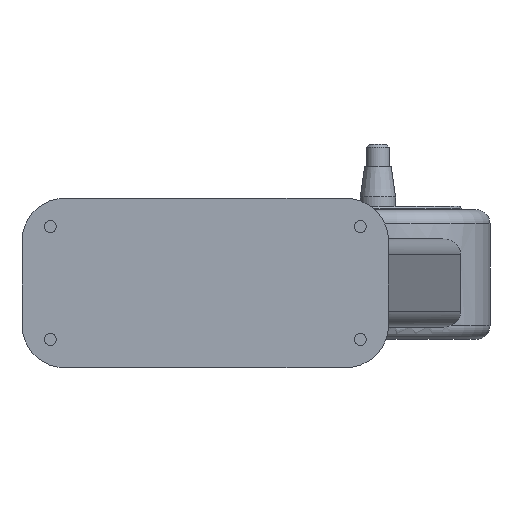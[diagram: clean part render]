
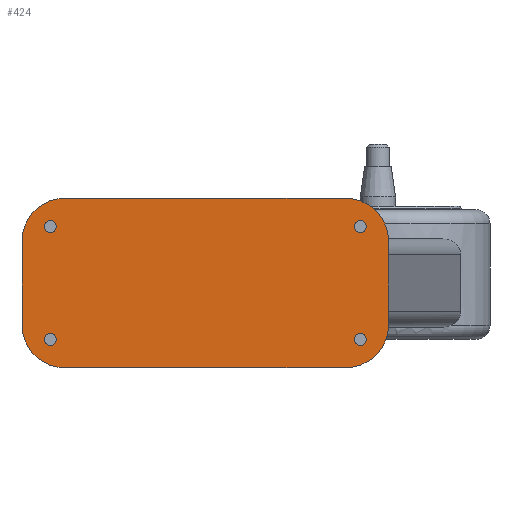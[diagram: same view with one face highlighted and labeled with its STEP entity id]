
A CAD part, front view. The second image highlights one B-rep face of the part: STEP entity #424.
In plain terms, the highlighted planar face has unit normal (0, -1, 0).
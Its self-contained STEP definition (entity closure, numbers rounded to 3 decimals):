
#36 = DIRECTION ( 'NONE',  ( 1., 0., 0. ) ) ;
#42 = DIRECTION ( 'NONE',  ( 0., -1., 0. ) ) ;
#53 = FACE_BOUND ( 'NONE', #187, .T. ) ;
#78 = VERTEX_POINT ( 'NONE', #725 ) ;
#92 = DIRECTION ( 'NONE',  ( 1., 0., 0. ) ) ;
#96 = EDGE_CURVE ( 'NONE', #1626, #918, #1276, .T. ) ;
#115 = FACE_OUTER_BOUND ( 'NONE', #1152, .T. ) ;
#129 = AXIS2_PLACEMENT_3D ( 'NONE', #443, #1768, #656 ) ;
#141 = DIRECTION ( 'NONE',  ( 1., 0., 0. ) ) ;
#142 = AXIS2_PLACEMENT_3D ( 'NONE', #1912, #873, #2055 ) ;
#162 = DIRECTION ( 'NONE',  ( 0., -1., 0. ) ) ;
#172 = CIRCLE ( 'NONE', #142, 4.25 ) ;
#177 = AXIS2_PLACEMENT_3D ( 'NONE', #2130, #1161, #2281 ) ;
#187 = EDGE_LOOP ( 'NONE', ( #1706, #1569 ) ) ;
#192 = EDGE_CURVE ( 'NONE', #1191, #1143, #1658, .T. ) ;
#204 = DIRECTION ( 'NONE',  ( 1., 0., 0. ) ) ;
#247 = ORIENTED_EDGE ( 'NONE', *, *, #1557, .T. ) ;
#280 = CIRCLE ( 'NONE', #1721, 4.25 ) ;
#281 = AXIS2_PLACEMENT_3D ( 'NONE', #1251, #42, #1430 ) ;
#287 = CARTESIAN_POINT ( 'NONE',  ( 102.666, 0., 30. ) ) ;
#383 = EDGE_CURVE ( 'NONE', #2217, #447, #2056, .T. ) ;
#412 = CARTESIAN_POINT ( 'NONE',  ( -127.334, 0., 60. ) ) ;
#424 = ADVANCED_FACE ( 'NONE', ( #1631, #53, #679, #613, #115 ), #1100, .F. ) ;
#443 = CARTESIAN_POINT ( 'NONE',  ( -97.334, 0., -30. ) ) ;
#447 = VERTEX_POINT ( 'NONE', #2231 ) ;
#469 = AXIS2_PLACEMENT_3D ( 'NONE', #1339, #162, #1536 ) ;
#486 = AXIS2_PLACEMENT_3D ( 'NONE', #1219, #1047, #36 ) ;
#488 = DIRECTION ( 'NONE',  ( -1., 0., 0. ) ) ;
#490 = DIRECTION ( 'NONE',  ( -1., 0., 0. ) ) ;
#507 = DIRECTION ( 'NONE',  ( -1., 0., 0. ) ) ;
#510 = DIRECTION ( 'NONE',  ( 0., -1., 0. ) ) ;
#511 = CARTESIAN_POINT ( 'NONE',  ( -97.334, 0., 30. ) ) ;
#530 = ORIENTED_EDGE ( 'NONE', *, *, #1374, .T. ) ;
#540 = ORIENTED_EDGE ( 'NONE', *, *, #1650, .F. ) ;
#546 = CARTESIAN_POINT ( 'NONE',  ( -127.334, 0., 30. ) ) ;
#549 = VERTEX_POINT ( 'NONE', #756 ) ;
#578 = EDGE_CURVE ( 'NONE', #549, #1333, #280, .T. ) ;
#590 = CARTESIAN_POINT ( 'NONE',  ( -97.334, 0., -60. ) ) ;
#606 = VECTOR ( 'NONE', #1194, 1000. ) ;
#613 = FACE_BOUND ( 'NONE', #1029, .T. ) ;
#625 = CARTESIAN_POINT ( 'NONE',  ( 102.666, 0., -60. ) ) ;
#636 = LINE ( 'NONE', #1668, #1697 ) ;
#656 = DIRECTION ( 'NONE',  ( -1., 0., 0. ) ) ;
#679 = FACE_BOUND ( 'NONE', #1024, .T. ) ;
#708 = ORIENTED_EDGE ( 'NONE', *, *, #2308, .T. ) ;
#710 = CARTESIAN_POINT ( 'NONE',  ( -127.334, 0., 60. ) ) ;
#725 = CARTESIAN_POINT ( 'NONE',  ( -103.084, 0., 40. ) ) ;
#750 = DIRECTION ( 'NONE',  ( 0., 1., 0. ) ) ;
#754 = VECTOR ( 'NONE', #1938, 1000. ) ;
#756 = CARTESIAN_POINT ( 'NONE',  ( 116.916, 0., 40. ) ) ;
#758 = EDGE_CURVE ( 'NONE', #1270, #1904, #1027, .T. ) ;
#759 = DIRECTION ( 'NONE',  ( 0., 0., -1. ) ) ;
#767 = ORIENTED_EDGE ( 'NONE', *, *, #578, .F. ) ;
#808 = CARTESIAN_POINT ( 'NONE',  ( -127.334, 0., -30. ) ) ;
#820 = CIRCLE ( 'NONE', #927, 30. ) ;
#821 = ORIENTED_EDGE ( 'NONE', *, *, #1624, .T. ) ;
#850 = AXIS2_PLACEMENT_3D ( 'NONE', #710, #750, #507 ) ;
#873 = DIRECTION ( 'NONE',  ( 0., -1., 0. ) ) ;
#898 = AXIS2_PLACEMENT_3D ( 'NONE', #511, #510, #490 ) ;
#918 = VERTEX_POINT ( 'NONE', #1782 ) ;
#927 = AXIS2_PLACEMENT_3D ( 'NONE', #287, #1652, #488 ) ;
#957 = DIRECTION ( 'NONE',  ( 0., -1., 0. ) ) ;
#970 = ORIENTED_EDGE ( 'NONE', *, *, #1861, .F. ) ;
#974 = VERTEX_POINT ( 'NONE', #1931 ) ;
#982 = CARTESIAN_POINT ( 'NONE',  ( -103.084, 0., -40. ) ) ;
#1024 = EDGE_LOOP ( 'NONE', ( #767, #2012 ) ) ;
#1027 = CIRCLE ( 'NONE', #1521, 4.25 ) ;
#1029 = EDGE_LOOP ( 'NONE', ( #1927, #970 ) ) ;
#1047 = DIRECTION ( 'NONE',  ( 0., -1., 0. ) ) ;
#1083 = CIRCLE ( 'NONE', #2061, 4.25 ) ;
#1100 = PLANE ( 'NONE',  #850 ) ;
#1143 = VERTEX_POINT ( 'NONE', #546 ) ;
#1150 = EDGE_LOOP ( 'NONE', ( #1389, #540 ) ) ;
#1152 = EDGE_LOOP ( 'NONE', ( #821, #1864, #1193, #247, #2169, #1375, #530, #708 ) ) ;
#1161 = DIRECTION ( 'NONE',  ( 0., -1., 0. ) ) ;
#1179 = LINE ( 'NONE', #412, #606 ) ;
#1191 = VERTEX_POINT ( 'NONE', #1517 ) ;
#1193 = ORIENTED_EDGE ( 'NONE', *, *, #2066, .F. ) ;
#1194 = DIRECTION ( 'NONE',  ( 0., 0., -1. ) ) ;
#1202 = VECTOR ( 'NONE', #759, 1000. ) ;
#1219 = CARTESIAN_POINT ( 'NONE',  ( 112.666, 0., -40. ) ) ;
#1251 = CARTESIAN_POINT ( 'NONE',  ( -107.334, 0., 40. ) ) ;
#1265 = LINE ( 'NONE', #1805, #754 ) ;
#1270 = VERTEX_POINT ( 'NONE', #982 ) ;
#1276 = CIRCLE ( 'NONE', #486, 4.25 ) ;
#1286 = DIRECTION ( 'NONE',  ( 0., -1., 0. ) ) ;
#1291 = DIRECTION ( 'NONE',  ( -1., 0., 0. ) ) ;
#1324 = VERTEX_POINT ( 'NONE', #808 ) ;
#1326 = DIRECTION ( 'NONE',  ( 0., -1., 0. ) ) ;
#1333 = VERTEX_POINT ( 'NONE', #1555 ) ;
#1339 = CARTESIAN_POINT ( 'NONE',  ( -107.334, 0., 40. ) ) ;
#1374 = EDGE_CURVE ( 'NONE', #1143, #1324, #1179, .T. ) ;
#1375 = ORIENTED_EDGE ( 'NONE', *, *, #192, .T. ) ;
#1386 = DIRECTION ( 'NONE',  ( 0., -1., 0. ) ) ;
#1389 = ORIENTED_EDGE ( 'NONE', *, *, #758, .F. ) ;
#1430 = DIRECTION ( 'NONE',  ( 1., 0., 0. ) ) ;
#1452 = CARTESIAN_POINT ( 'NONE',  ( -111.584, 0., -40. ) ) ;
#1517 = CARTESIAN_POINT ( 'NONE',  ( -97.334, 0., 60. ) ) ;
#1519 = CARTESIAN_POINT ( 'NONE',  ( 102.666, 0., -30. ) ) ;
#1521 = AXIS2_PLACEMENT_3D ( 'NONE', #2307, #1386, #204 ) ;
#1536 = DIRECTION ( 'NONE',  ( 1., 0., 0. ) ) ;
#1555 = CARTESIAN_POINT ( 'NONE',  ( 108.416, 0., 40. ) ) ;
#1557 = EDGE_CURVE ( 'NONE', #1592, #1573, #820, .T. ) ;
#1569 = ORIENTED_EDGE ( 'NONE', *, *, #96, .F. ) ;
#1573 = VERTEX_POINT ( 'NONE', #1799 ) ;
#1577 = EDGE_CURVE ( 'NONE', #1191, #1573, #1265, .T. ) ;
#1592 = VERTEX_POINT ( 'NONE', #2071 ) ;
#1624 = EDGE_CURVE ( 'NONE', #1756, #2217, #636, .T. ) ;
#1626 = VERTEX_POINT ( 'NONE', #1956 ) ;
#1631 = FACE_BOUND ( 'NONE', #1150, .T. ) ;
#1650 = EDGE_CURVE ( 'NONE', #1904, #1270, #1083, .T. ) ;
#1652 = DIRECTION ( 'NONE',  ( 0., -1., 0. ) ) ;
#1658 = CIRCLE ( 'NONE', #898, 30. ) ;
#1668 = CARTESIAN_POINT ( 'NONE',  ( -127.334, 0., -60. ) ) ;
#1669 = CIRCLE ( 'NONE', #129, 30. ) ;
#1697 = VECTOR ( 'NONE', #92, 1000. ) ;
#1706 = ORIENTED_EDGE ( 'NONE', *, *, #1850, .F. ) ;
#1717 = EDGE_CURVE ( 'NONE', #78, #974, #1895, .T. ) ;
#1721 = AXIS2_PLACEMENT_3D ( 'NONE', #1982, #957, #2122 ) ;
#1756 = VERTEX_POINT ( 'NONE', #590 ) ;
#1768 = DIRECTION ( 'NONE',  ( 0., -1., 0. ) ) ;
#1782 = CARTESIAN_POINT ( 'NONE',  ( 116.916, 0., -40. ) ) ;
#1799 = CARTESIAN_POINT ( 'NONE',  ( 102.666, 0., 60. ) ) ;
#1805 = CARTESIAN_POINT ( 'NONE',  ( -127.334, 0., 60. ) ) ;
#1847 = CARTESIAN_POINT ( 'NONE',  ( 132.666, 0., 60. ) ) ;
#1850 = EDGE_CURVE ( 'NONE', #918, #1626, #172, .T. ) ;
#1861 = EDGE_CURVE ( 'NONE', #974, #78, #2050, .T. ) ;
#1864 = ORIENTED_EDGE ( 'NONE', *, *, #383, .T. ) ;
#1895 = CIRCLE ( 'NONE', #469, 4.25 ) ;
#1904 = VERTEX_POINT ( 'NONE', #1452 ) ;
#1912 = CARTESIAN_POINT ( 'NONE',  ( 112.666, 0., -40. ) ) ;
#1927 = ORIENTED_EDGE ( 'NONE', *, *, #1717, .F. ) ;
#1931 = CARTESIAN_POINT ( 'NONE',  ( -111.584, 0., 40. ) ) ;
#1938 = DIRECTION ( 'NONE',  ( 1., 0., 0. ) ) ;
#1956 = CARTESIAN_POINT ( 'NONE',  ( 108.416, 0., -40. ) ) ;
#1980 = CIRCLE ( 'NONE', #177, 4.25 ) ;
#1982 = CARTESIAN_POINT ( 'NONE',  ( 112.666, 0., 40. ) ) ;
#2012 = ORIENTED_EDGE ( 'NONE', *, *, #2109, .F. ) ;
#2023 = LINE ( 'NONE', #1847, #1202 ) ;
#2050 = CIRCLE ( 'NONE', #281, 4.25 ) ;
#2055 = DIRECTION ( 'NONE',  ( 1., 0., 0. ) ) ;
#2056 = CIRCLE ( 'NONE', #2223, 30. ) ;
#2061 = AXIS2_PLACEMENT_3D ( 'NONE', #2264, #1326, #141 ) ;
#2066 = EDGE_CURVE ( 'NONE', #1592, #447, #2023, .T. ) ;
#2071 = CARTESIAN_POINT ( 'NONE',  ( 132.666, 0., 30. ) ) ;
#2109 = EDGE_CURVE ( 'NONE', #1333, #549, #1980, .T. ) ;
#2122 = DIRECTION ( 'NONE',  ( 1., 0., 0. ) ) ;
#2130 = CARTESIAN_POINT ( 'NONE',  ( 112.666, 0., 40. ) ) ;
#2169 = ORIENTED_EDGE ( 'NONE', *, *, #1577, .F. ) ;
#2217 = VERTEX_POINT ( 'NONE', #625 ) ;
#2223 = AXIS2_PLACEMENT_3D ( 'NONE', #1519, #1286, #1291 ) ;
#2231 = CARTESIAN_POINT ( 'NONE',  ( 132.666, 0., -30. ) ) ;
#2264 = CARTESIAN_POINT ( 'NONE',  ( -107.334, 0., -40. ) ) ;
#2281 = DIRECTION ( 'NONE',  ( 1., 0., 0. ) ) ;
#2307 = CARTESIAN_POINT ( 'NONE',  ( -107.334, 0., -40. ) ) ;
#2308 = EDGE_CURVE ( 'NONE', #1324, #1756, #1669, .T. ) ;
